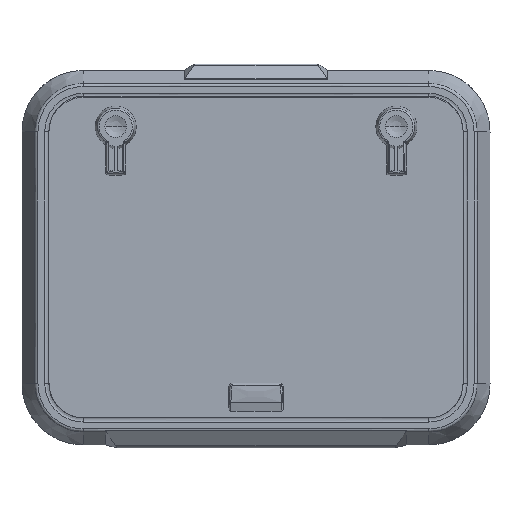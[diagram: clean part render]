
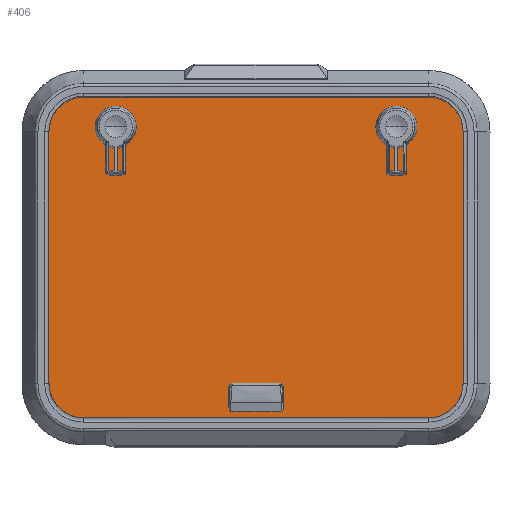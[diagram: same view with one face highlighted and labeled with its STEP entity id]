
A CAD part, front view. The second image highlights one B-rep face of the part: STEP entity #406.
In plain terms, the highlighted planar face has unit normal (0, -1, 0).
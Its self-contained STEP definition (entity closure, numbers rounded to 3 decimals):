
#1=CARTESIAN_POINT('',(81.9,0.,-37.5));
#2=DIRECTION('',(0.,-1.,0.));
#3=DIRECTION('',(1.,0.,0.));
#4=AXIS2_PLACEMENT_3D('',#1,#2,#3);
#6=CARTESIAN_POINT('',(81.9,0.,-37.5));
#7=DIRECTION('',(0.,-1.,0.));
#8=DIRECTION('',(-1.,0.,0.));
#9=AXIS2_PLACEMENT_3D('',#6,#7,#8);
#11=CARTESIAN_POINT('',(97.055,0.,-46.25));
#12=DIRECTION('',(0.,-1.,0.));
#13=DIRECTION('',(1.,0.,0.));
#14=AXIS2_PLACEMENT_3D('',#11,#12,#13);
#16=CARTESIAN_POINT('',(97.055,0.,-46.25));
#17=DIRECTION('',(0.,-1.,0.));
#18=DIRECTION('',(-1.,0.,0.));
#19=AXIS2_PLACEMENT_3D('',#16,#17,#18);
#21=CARTESIAN_POINT('',(426.1,0.,-37.5));
#22=DIRECTION('',(0.,-1.,0.));
#23=DIRECTION('',(1.,0.,0.));
#24=AXIS2_PLACEMENT_3D('',#21,#22,#23);
#26=CARTESIAN_POINT('',(426.1,0.,-37.5));
#27=DIRECTION('',(0.,-1.,0.));
#28=DIRECTION('',(-1.,0.,0.));
#29=AXIS2_PLACEMENT_3D('',#26,#27,#28);
#31=CARTESIAN_POINT('',(410.945,0.,-46.25));
#32=DIRECTION('',(0.,-1.,0.));
#33=DIRECTION('',(1.,0.,0.));
#34=AXIS2_PLACEMENT_3D('',#31,#32,#33);
#36=CARTESIAN_POINT('',(410.945,0.,-46.25));
#37=DIRECTION('',(0.,-1.,0.));
#38=DIRECTION('',(-1.,0.,0.));
#39=AXIS2_PLACEMENT_3D('',#36,#37,#38);
#41=DIRECTION('',(1.,0.,0.));
#42=VECTOR('',#41,422.);
#43=CARTESIAN_POINT('',(43.,0.,0.));
#44=LINE('',#43,#42);
#45=CARTESIAN_POINT('',(465.,0.,-43.));
#46=DIRECTION('',(0.,1.,0.));
#47=DIRECTION('',(0.,0.,1.));
#48=AXIS2_PLACEMENT_3D('',#45,#46,#47);
#50=DIRECTION('',(0.,0.,-1.));
#51=VECTOR('',#50,308.8);
#52=CARTESIAN_POINT('',(508.,0.,-43.));
#53=LINE('',#52,#51);
#54=CARTESIAN_POINT('',(465.,0.,-351.8));
#55=DIRECTION('',(0.,1.,0.));
#56=DIRECTION('',(1.,0.,0.));
#57=AXIS2_PLACEMENT_3D('',#54,#55,#56);
#59=DIRECTION('',(-1.,0.,0.));
#60=VECTOR('',#59,422.);
#61=CARTESIAN_POINT('',(465.,0.,-394.8));
#62=LINE('',#61,#60);
#63=CARTESIAN_POINT('',(43.,0.,-351.8));
#64=DIRECTION('',(0.,1.,0.));
#65=DIRECTION('',(0.,0.,-1.));
#66=AXIS2_PLACEMENT_3D('',#63,#64,#65);
#68=DIRECTION('',(0.,0.,1.));
#69=VECTOR('',#68,308.8);
#70=CARTESIAN_POINT('',(0.,0.,-351.8));
#71=LINE('',#70,#69);
#72=CARTESIAN_POINT('',(43.,0.,-43.));
#73=DIRECTION('',(0.,1.,0.));
#74=DIRECTION('',(-1.,0.,0.));
#75=AXIS2_PLACEMENT_3D('',#72,#73,#74);
#77=CARTESIAN_POINT('',(275.5,0.,-363.8));
#78=DIRECTION('',(0.,-1.,0.));
#79=DIRECTION('',(0.,0.,-1.));
#80=AXIS2_PLACEMENT_3D('',#77,#78,#79);
#82=DIRECTION('',(-1.,0.,0.));
#83=VECTOR('',#82,43.);
#84=CARTESIAN_POINT('',(275.5,0.,-358.3));
#85=LINE('',#84,#83);
#86=CARTESIAN_POINT('',(232.5,0.,-363.8));
#87=DIRECTION('',(0.,-1.,0.));
#88=DIRECTION('',(0.,0.,1.));
#89=AXIS2_PLACEMENT_3D('',#86,#87,#88);
#91=DIRECTION('',(1.,0.,0.));
#92=VECTOR('',#91,43.);
#93=CARTESIAN_POINT('',(232.5,0.,-369.3));
#94=LINE('',#93,#92);
#269=CARTESIAN_POINT('',(43.,0.,0.));
#270=CARTESIAN_POINT('',(465.,0.,0.));
#271=VERTEX_POINT('',#269);
#272=VERTEX_POINT('',#270);
#273=CARTESIAN_POINT('',(508.,0.,-43.));
#274=VERTEX_POINT('',#273);
#275=CARTESIAN_POINT('',(508.,0.,-351.8));
#276=VERTEX_POINT('',#275);
#277=CARTESIAN_POINT('',(465.,0.,-394.8));
#278=VERTEX_POINT('',#277);
#279=CARTESIAN_POINT('',(43.,0.,-394.8));
#280=VERTEX_POINT('',#279);
#281=CARTESIAN_POINT('',(0.,0.,-351.8));
#282=VERTEX_POINT('',#281);
#283=CARTESIAN_POINT('',(0.,0.,-43.));
#284=VERTEX_POINT('',#283);
#285=CARTESIAN_POINT('',(275.5,0.,-369.3));
#286=CARTESIAN_POINT('',(275.5,0.,-358.3));
#287=VERTEX_POINT('',#285);
#288=VERTEX_POINT('',#286);
#289=CARTESIAN_POINT('',(232.5,0.,-358.3));
#290=VERTEX_POINT('',#289);
#291=CARTESIAN_POINT('',(232.5,0.,-369.3));
#292=VERTEX_POINT('',#291);
#317=CARTESIAN_POINT('',(89.4,0.,-37.5));
#318=CARTESIAN_POINT('',(74.4,0.,-37.5));
#319=VERTEX_POINT('',#317);
#320=VERTEX_POINT('',#318);
#321=CARTESIAN_POINT('',(100.393,0.,-46.25));
#322=CARTESIAN_POINT('',(93.718,0.,-46.25));
#323=VERTEX_POINT('',#321);
#324=VERTEX_POINT('',#322);
#333=CARTESIAN_POINT('',(433.6,0.,-37.5));
#334=CARTESIAN_POINT('',(418.6,0.,-37.5));
#335=VERTEX_POINT('',#333);
#336=VERTEX_POINT('',#334);
#337=CARTESIAN_POINT('',(414.282,0.,-46.25));
#338=CARTESIAN_POINT('',(407.607,0.,-46.25));
#339=VERTEX_POINT('',#337);
#340=VERTEX_POINT('',#338);
#349=CARTESIAN_POINT('',(0.,0.,0.));
#350=DIRECTION('',(0.,1.,0.));
#351=DIRECTION('',(1.,0.,0.));
#352=AXIS2_PLACEMENT_3D('',#349,#350,#351);
#353=PLANE('',#352);
#355=ORIENTED_EDGE('',*,*,#354,.T.);
#357=ORIENTED_EDGE('',*,*,#356,.T.);
#359=ORIENTED_EDGE('',*,*,#358,.T.);
#361=ORIENTED_EDGE('',*,*,#360,.T.);
#363=ORIENTED_EDGE('',*,*,#362,.T.);
#365=ORIENTED_EDGE('',*,*,#364,.T.);
#367=ORIENTED_EDGE('',*,*,#366,.T.);
#369=ORIENTED_EDGE('',*,*,#368,.T.);
#370=EDGE_LOOP('',(#355,#357,#359,#361,#363,#365,#367,#369));
#371=FACE_OUTER_BOUND('',#370,.F.);
#373=ORIENTED_EDGE('',*,*,#372,.T.);
#375=ORIENTED_EDGE('',*,*,#374,.T.);
#376=EDGE_LOOP('',(#373,#375));
#377=FACE_BOUND('',#376,.F.);
#379=ORIENTED_EDGE('',*,*,#378,.T.);
#381=ORIENTED_EDGE('',*,*,#380,.T.);
#382=EDGE_LOOP('',(#379,#381));
#383=FACE_BOUND('',#382,.F.);
#385=ORIENTED_EDGE('',*,*,#384,.T.);
#387=ORIENTED_EDGE('',*,*,#386,.T.);
#388=EDGE_LOOP('',(#385,#387));
#389=FACE_BOUND('',#388,.F.);
#391=ORIENTED_EDGE('',*,*,#390,.T.);
#393=ORIENTED_EDGE('',*,*,#392,.T.);
#394=EDGE_LOOP('',(#391,#393));
#395=FACE_BOUND('',#394,.F.);
#397=ORIENTED_EDGE('',*,*,#396,.T.);
#399=ORIENTED_EDGE('',*,*,#398,.T.);
#401=ORIENTED_EDGE('',*,*,#400,.T.);
#403=ORIENTED_EDGE('',*,*,#402,.T.);
#404=EDGE_LOOP('',(#397,#399,#401,#403));
#405=FACE_BOUND('',#404,.F.);
#406=ADVANCED_FACE('',(#371,#377,#383,#389,#395,#405),#353,.F.);
#5=CIRCLE('',#4,7.5);
#10=CIRCLE('',#9,7.5);
#15=CIRCLE('',#14,3.338);
#20=CIRCLE('',#19,3.338);
#25=CIRCLE('',#24,7.5);
#30=CIRCLE('',#29,7.5);
#35=CIRCLE('',#34,3.338);
#40=CIRCLE('',#39,3.338);
#49=CIRCLE('',#48,43.);
#58=CIRCLE('',#57,43.);
#67=CIRCLE('',#66,43.);
#76=CIRCLE('',#75,43.);
#81=CIRCLE('',#80,5.5);
#90=CIRCLE('',#89,5.5);
#354=EDGE_CURVE('',#271,#272,#44,.T.);
#356=EDGE_CURVE('',#272,#274,#49,.T.);
#358=EDGE_CURVE('',#274,#276,#53,.T.);
#360=EDGE_CURVE('',#276,#278,#58,.T.);
#362=EDGE_CURVE('',#278,#280,#62,.T.);
#364=EDGE_CURVE('',#280,#282,#67,.T.);
#366=EDGE_CURVE('',#282,#284,#71,.T.);
#368=EDGE_CURVE('',#284,#271,#76,.T.);
#372=EDGE_CURVE('',#319,#320,#5,.T.);
#374=EDGE_CURVE('',#320,#319,#10,.T.);
#378=EDGE_CURVE('',#323,#324,#15,.T.);
#380=EDGE_CURVE('',#324,#323,#20,.T.);
#384=EDGE_CURVE('',#335,#336,#25,.T.);
#386=EDGE_CURVE('',#336,#335,#30,.T.);
#390=EDGE_CURVE('',#339,#340,#35,.T.);
#392=EDGE_CURVE('',#340,#339,#40,.T.);
#396=EDGE_CURVE('',#287,#288,#81,.T.);
#398=EDGE_CURVE('',#288,#290,#85,.T.);
#400=EDGE_CURVE('',#290,#292,#90,.T.);
#402=EDGE_CURVE('',#292,#287,#94,.T.);
